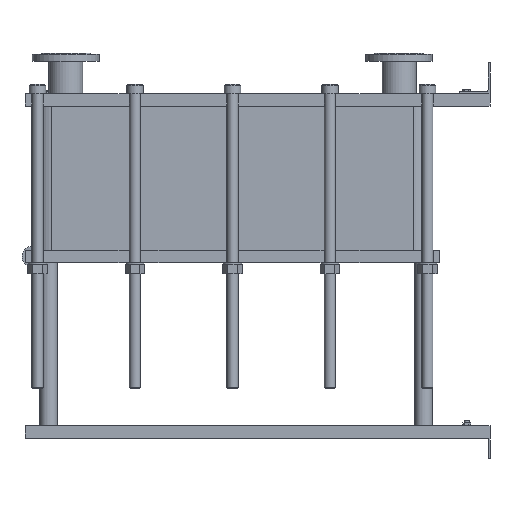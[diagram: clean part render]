
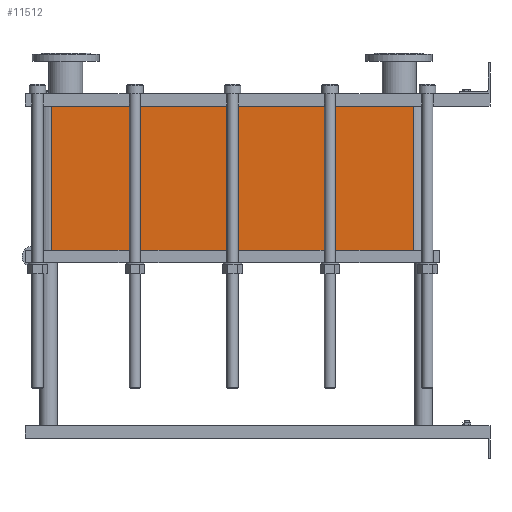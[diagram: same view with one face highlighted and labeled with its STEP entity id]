
A CAD part, left-side view. The second image highlights one B-rep face of the part: STEP entity #11512.
In plain terms, the highlighted planar face has unit normal (-1, 0, 0).
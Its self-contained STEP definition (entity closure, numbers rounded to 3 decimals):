
#1129=LINE('',#23232,#2102);
#1130=LINE('',#23236,#2103);
#1131=LINE('',#23238,#2104);
#1132=LINE('',#23239,#2105);
#2102=VECTOR('',#15887,10.);
#2103=VECTOR('',#15892,10.);
#2104=VECTOR('',#15893,10.);
#2105=VECTOR('',#15894,10.);
#3267=FACE_OUTER_BOUND('',#4093,.T.);
#4093=EDGE_LOOP('',(#10103,#10104,#10105,#10106));
#5642=VERTEX_POINT('',#23229);
#5643=VERTEX_POINT('',#23231);
#5644=VERTEX_POINT('',#23235);
#5645=VERTEX_POINT('',#23237);
#7159=EDGE_CURVE('',#5643,#5642,#1129,.T.);
#7161=EDGE_CURVE('',#5642,#5644,#1130,.T.);
#7162=EDGE_CURVE('',#5645,#5644,#1131,.T.);
#7163=EDGE_CURVE('',#5645,#5643,#1132,.T.);
#10103=ORIENTED_EDGE('',*,*,#7161,.T.);
#10104=ORIENTED_EDGE('',*,*,#7162,.F.);
#10105=ORIENTED_EDGE('',*,*,#7163,.T.);
#10106=ORIENTED_EDGE('',*,*,#7159,.T.);
#10857=PLANE('',#12751);
#11512=ADVANCED_FACE('',(#3267),#10857,.T.);
#12751=AXIS2_PLACEMENT_3D('',#23234,#15890,#15891);
#15887=DIRECTION('',(0.,0.,-1.));
#15890=DIRECTION('center_axis',(-1.,0.,0.));
#15891=DIRECTION('ref_axis',(0.,1.,0.));
#15892=DIRECTION('',(0.,-1.,0.));
#15893=DIRECTION('',(0.,0.,-1.));
#15894=DIRECTION('',(0.,1.,0.));
#23229=CARTESIAN_POINT('',(-200.,1414.,-465.75));
#23231=CARTESIAN_POINT('',(-200.,1414.,0.));
#23232=CARTESIAN_POINT('',(-200.,1414.,0.));
#23234=CARTESIAN_POINT('Origin',(-200.,248.,0.));
#23235=CARTESIAN_POINT('',(-200.,248.,-465.75));
#23236=CARTESIAN_POINT('',(-200.,539.5,-465.75));
#23237=CARTESIAN_POINT('',(-200.,248.,0.));
#23238=CARTESIAN_POINT('',(-200.,248.,0.));
#23239=CARTESIAN_POINT('',(-200.,248.,0.));
